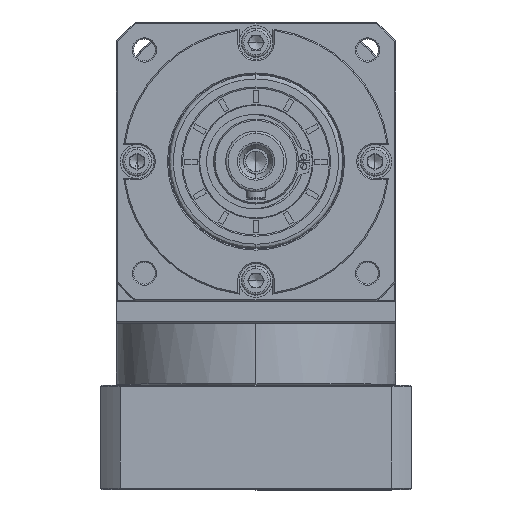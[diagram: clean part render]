
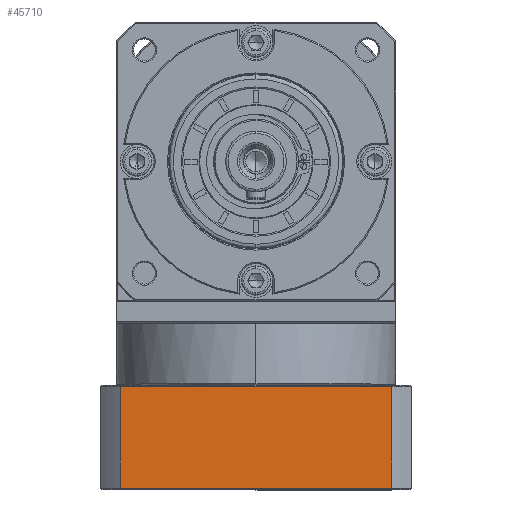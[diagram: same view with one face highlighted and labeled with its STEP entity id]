
A CAD part, top view. The second image highlights one B-rep face of the part: STEP entity #45710.
In plain terms, the highlighted planar face has unit normal (0, 0, 1).
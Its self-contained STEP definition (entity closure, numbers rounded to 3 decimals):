
#1872 = VERTEX_POINT ( 'NONE', #147149 ) ;
#22592 = ORIENTED_EDGE ( 'NONE', *, *, #42935, .F. ) ;
#26842 = CARTESIAN_POINT ( 'NONE',  ( -246.845, -152.343, 104.735 ) ) ;
#30997 = ORIENTED_EDGE ( 'NONE', *, *, #114861, .F. ) ;
#33357 = DIRECTION ( 'NONE',  ( -1., 0., 0. ) ) ;
#38349 = ORIENTED_EDGE ( 'NONE', *, *, #166664, .F. ) ;
#39048 = CARTESIAN_POINT ( 'NONE',  ( -238.783, -152.343, 104.735 ) ) ;
#40347 = DIRECTION ( 'NONE',  ( -1., 0., 0. ) ) ;
#42935 = EDGE_CURVE ( 'NONE', #105366, #62461, #92617, .T. ) ;
#45710 = ADVANCED_FACE ( 'NONE', ( #63878 ), #146947, .F. ) ;
#53605 = DIRECTION ( 'NONE',  ( 0., -1., 0. ) ) ;
#54554 = LINE ( 'NONE', #110325, #121634 ) ;
#56958 = VECTOR ( 'NONE', #173301, 1000. ) ;
#57263 = EDGE_CURVE ( 'NONE', #62461, #1872, #54554, .T. ) ;
#57663 = CARTESIAN_POINT ( 'NONE',  ( -238.783, -151.843, 104.735 ) ) ;
#62461 = VERTEX_POINT ( 'NONE', #167100 ) ;
#63878 = FACE_OUTER_BOUND ( 'NONE', #98480, .T. ) ;
#89655 = LINE ( 'NONE', #120383, #156659 ) ;
#90243 = AXIS2_PLACEMENT_3D ( 'NONE', #26842, #120712, #40347 ) ;
#92617 = LINE ( 'NONE', #39048, #56958 ) ;
#98480 = EDGE_LOOP ( 'NONE', ( #38349, #121247, #22592, #30997 ) ) ;
#105366 = VERTEX_POINT ( 'NONE', #57663 ) ;
#110325 = CARTESIAN_POINT ( 'NONE',  ( -246.845, -109.843, 104.735 ) ) ;
#113660 = CARTESIAN_POINT ( 'NONE',  ( -246.845, -151.843, 104.735 ) ) ;
#114861 = EDGE_CURVE ( 'NONE', #153596, #105366, #143547, .T. ) ;
#120383 = CARTESIAN_POINT ( 'NONE',  ( -126.908, 143.071, 104.735 ) ) ;
#120712 = DIRECTION ( 'NONE',  ( 0., 0., -1. ) ) ;
#121247 = ORIENTED_EDGE ( 'NONE', *, *, #57263, .F. ) ;
#121634 = VECTOR ( 'NONE', #123809, 1000. ) ;
#123809 = DIRECTION ( 'NONE',  ( 1., 0., 0. ) ) ;
#143547 = LINE ( 'NONE', #113660, #164644 ) ;
#146947 = PLANE ( 'NONE',  #90243 ) ;
#147149 = CARTESIAN_POINT ( 'NONE',  ( -126.908, -109.843, 104.735 ) ) ;
#153596 = VERTEX_POINT ( 'NONE', #155397 ) ;
#155397 = CARTESIAN_POINT ( 'NONE',  ( -126.908, -151.843, 104.735 ) ) ;
#156659 = VECTOR ( 'NONE', #53605, 1000. ) ;
#164644 = VECTOR ( 'NONE', #33357, 1000. ) ;
#166664 = EDGE_CURVE ( 'NONE', #1872, #153596, #89655, .T. ) ;
#167100 = CARTESIAN_POINT ( 'NONE',  ( -238.783, -109.843, 104.735 ) ) ;
#173301 = DIRECTION ( 'NONE',  ( 0., 1., 0. ) ) ;
